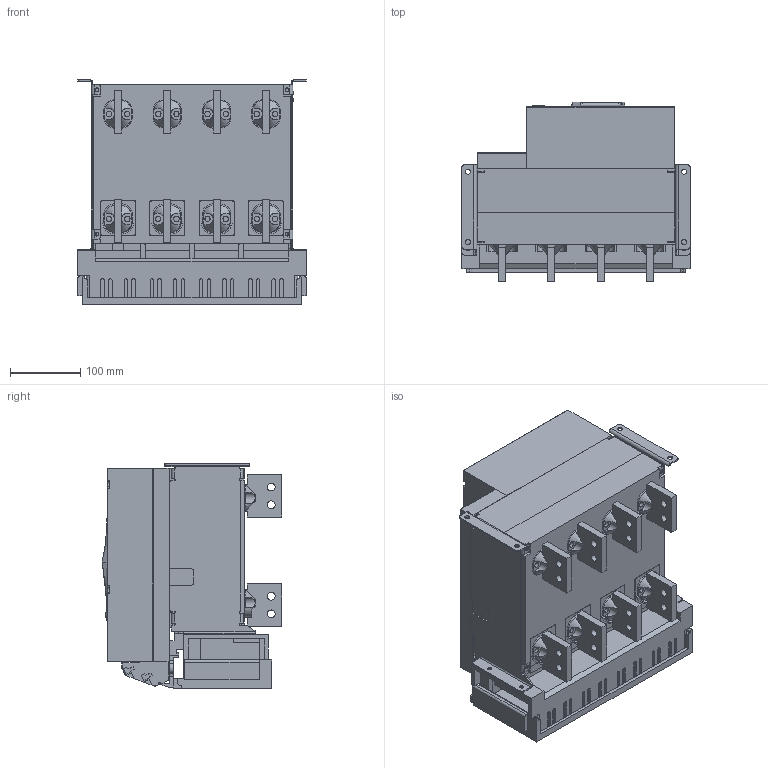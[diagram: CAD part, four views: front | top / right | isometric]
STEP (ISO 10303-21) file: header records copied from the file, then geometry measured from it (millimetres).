
FILE_DESCRIPTION((''),'2;1');
FILE_NAME('NA8G-1600-1000-F-4P-V_ASM','2019-06-03T15:49:10',('lcc'),(''),'CREO PARAMETRIC BY PTC INC, 2018020','CREO PARAMETRIC BY PTC INC, 2018020','');
FILE_SCHEMA(('CONFIG_CONTROL_DESIGN','SHAPE_APPEARANCE_LAYERS_GROUPS'));
Products named in the file (19): 1600-JIZUO-4P; 1600-DIBAN-4P; 8-050-245; 8-050-246; 8-300-162-2; 8-005-238; 8-300-163; 8-015-020; 8ZTD-064-138; 8ZTD-024-689; 8ZTD-860-511; 1600-DUANZI-CTS_ASM; 8-253-348; 8-253-349; 5-235-147; 8-253-309; 8-211-087; 8ZTD-580-187-2; NA8G-1600-1000-F-4P-V_ASM
Assembly tree (41 placements, depth 3):
  NA8G-1600-1000-F-4P-V_ASM
    1600-JIZUO-4P
    1600-DIBAN-4P
    8-050-245
    8-050-246
    8-300-162-2
    8-005-238
    8-300-163
    8-015-020
    1600-DUANZI-CTS_ASM
      8ZTD-064-138
      8ZTD-024-689  x14
      8ZTD-860-511
    8-253-348
    8-253-349
    5-235-147
    8-253-309
    8-211-087  x4
    8ZTD-580-187-2  x8
Bounding box: 324 x 255 x 318.5 mm (x, y, z)
Volume: 8948520 mm3; surface area: 1654876.9 mm2
Topology: 40 solids, 59 shells, 5336 faces, 14790 edges, 9715 vertices
Faces by surface type: plane 4279, cylinder 986, cone 32, torus 18, bspline 10, sphere 10, extrusion 1
Entity records: 128897 total; most frequent: CARTESIAN_POINT 18532, ORIENTED_EDGE 16990, DIRECTION 16162, PRESENTATION_STYLE_ASSIGNMENT 9073, STYLED_ITEM 9058, CURVE_STYLE 8498, EDGE_CURVE 8498, VECTOR 6946
